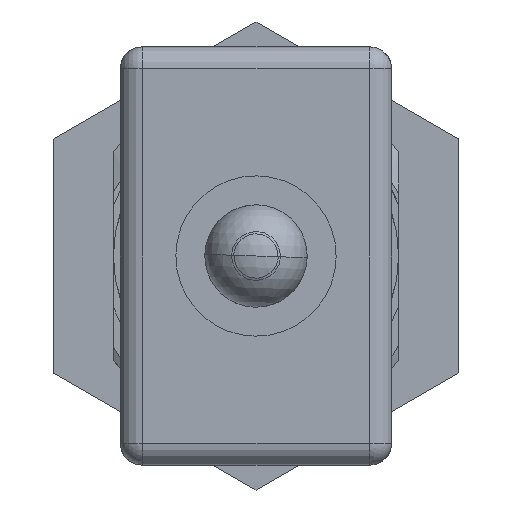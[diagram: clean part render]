
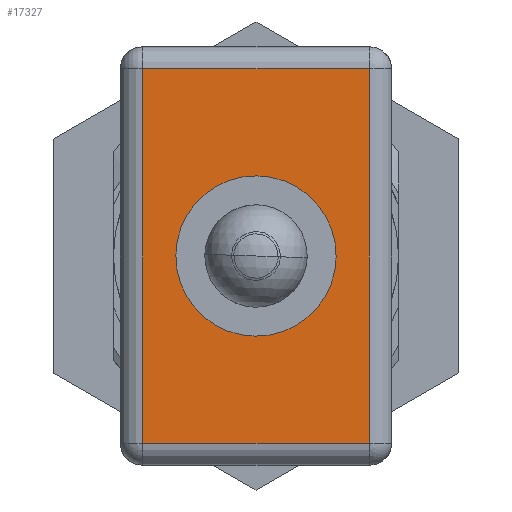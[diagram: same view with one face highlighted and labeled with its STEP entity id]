
A CAD part, left-side view. The second image highlights one B-rep face of the part: STEP entity #17327.
In plain terms, the highlighted planar face has unit normal (-1, 0, 0).
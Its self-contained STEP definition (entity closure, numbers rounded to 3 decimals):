
#44 = LINE ( 'NONE', #3431, #14886 ) ;
#308 = DIRECTION ( 'NONE',  ( 1., 0., 0. ) ) ;
#315 = VERTEX_POINT ( 'NONE', #21334 ) ;
#433 = CARTESIAN_POINT ( 'NONE',  ( -22.098, 3.048, -4.699 ) ) ;
#517 = DIRECTION ( 'NONE',  ( 0., 0., -1. ) ) ;
#845 = ORIENTED_EDGE ( 'NONE', *, *, #16690, .T. ) ;
#981 = EDGE_LOOP ( 'NONE', ( #12499, #20422 ) ) ;
#1098 = CARTESIAN_POINT ( 'NONE',  ( -22.098, 2.548, -4.199 ) ) ;
#1789 = EDGE_CURVE ( 'NONE', #12195, #14315, #16453, .T. ) ;
#2385 = CIRCLE ( 'NONE', #20015, 1.8 ) ;
#2676 = FACE_OUTER_BOUND ( 'NONE', #4349, .T. ) ;
#2733 = EDGE_CURVE ( 'NONE', #315, #9193, #8498, .T. ) ;
#2787 = CARTESIAN_POINT ( 'NONE',  ( -22.098, 0.33, -1.769 ) ) ;
#2931 = ORIENTED_EDGE ( 'NONE', *, *, #2733, .T. ) ;
#3407 = AXIS2_PLACEMENT_3D ( 'NONE', #433, #5614, #19088 ) ;
#3431 = CARTESIAN_POINT ( 'NONE',  ( -22.098, 3.048, 4.199 ) ) ;
#4349 = EDGE_LOOP ( 'NONE', ( #9542, #18309, #845, #2931 ) ) ;
#5614 = DIRECTION ( 'NONE',  ( 1., 0., 0. ) ) ;
#6060 = CIRCLE ( 'NONE', #15071, 1.8 ) ;
#6370 = CARTESIAN_POINT ( 'NONE',  ( -22.098, -2.548, -4.699 ) ) ;
#6611 = CARTESIAN_POINT ( 'NONE',  ( -22.098, -2.548, -4.199 ) ) ;
#6943 = EDGE_CURVE ( 'NONE', #9193, #12195, #21787, .T. ) ;
#7974 = VECTOR ( 'NONE', #19850, 1000. ) ;
#8080 = DIRECTION ( 'NONE',  ( 0., 0., 1. ) ) ;
#8498 = LINE ( 'NONE', #16457, #7974 ) ;
#9193 = VERTEX_POINT ( 'NONE', #1098 ) ;
#9542 = ORIENTED_EDGE ( 'NONE', *, *, #6943, .T. ) ;
#10047 = DIRECTION ( 'NONE',  ( 0., -1., 0. ) ) ;
#10220 = CARTESIAN_POINT ( 'NONE',  ( -22.098, -2.548, 4.199 ) ) ;
#10672 = VECTOR ( 'NONE', #10047, 1000. ) ;
#11945 = VECTOR ( 'NONE', #8080, 1000. ) ;
#12080 = CARTESIAN_POINT ( 'NONE',  ( -22.098, 0., 0. ) ) ;
#12195 = VERTEX_POINT ( 'NONE', #6611 ) ;
#12499 = ORIENTED_EDGE ( 'NONE', *, *, #17189, .T. ) ;
#13771 = DIRECTION ( 'NONE',  ( 1., 0., 0. ) ) ;
#13817 = VERTEX_POINT ( 'NONE', #2787 ) ;
#14063 = CARTESIAN_POINT ( 'NONE',  ( -22.098, 0., 0. ) ) ;
#14315 = VERTEX_POINT ( 'NONE', #10220 ) ;
#14405 = VERTEX_POINT ( 'NONE', #19524 ) ;
#14886 = VECTOR ( 'NONE', #15288, 1000. ) ;
#15071 = AXIS2_PLACEMENT_3D ( 'NONE', #12080, #308, #517 ) ;
#15288 = DIRECTION ( 'NONE',  ( 0., 1., 0. ) ) ;
#15681 = DIRECTION ( 'NONE',  ( 0., 0., -1. ) ) ;
#16453 = LINE ( 'NONE', #6370, #11945 ) ;
#16457 = CARTESIAN_POINT ( 'NONE',  ( -22.098, 2.548, -4.699 ) ) ;
#16690 = EDGE_CURVE ( 'NONE', #14315, #315, #44, .T. ) ;
#17189 = EDGE_CURVE ( 'NONE', #14405, #13817, #2385, .T. ) ;
#17327 = ADVANCED_FACE ( 'NONE', ( #21459, #2676 ), #17387, .F. ) ;
#17387 = PLANE ( 'NONE',  #3407 ) ;
#18309 = ORIENTED_EDGE ( 'NONE', *, *, #1789, .T. ) ;
#19088 = DIRECTION ( 'NONE',  ( 0., 0., -1. ) ) ;
#19486 = EDGE_CURVE ( 'NONE', #13817, #14405, #6060, .T. ) ;
#19524 = CARTESIAN_POINT ( 'NONE',  ( -22.098, -0.33, 1.769 ) ) ;
#19850 = DIRECTION ( 'NONE',  ( 0., 0., -1. ) ) ;
#20015 = AXIS2_PLACEMENT_3D ( 'NONE', #14063, #13771, #15681 ) ;
#20257 = CARTESIAN_POINT ( 'NONE',  ( -22.098, 3.048, -4.199 ) ) ;
#20422 = ORIENTED_EDGE ( 'NONE', *, *, #19486, .T. ) ;
#21334 = CARTESIAN_POINT ( 'NONE',  ( -22.098, 2.548, 4.199 ) ) ;
#21459 = FACE_BOUND ( 'NONE', #981, .T. ) ;
#21787 = LINE ( 'NONE', #20257, #10672 ) ;
